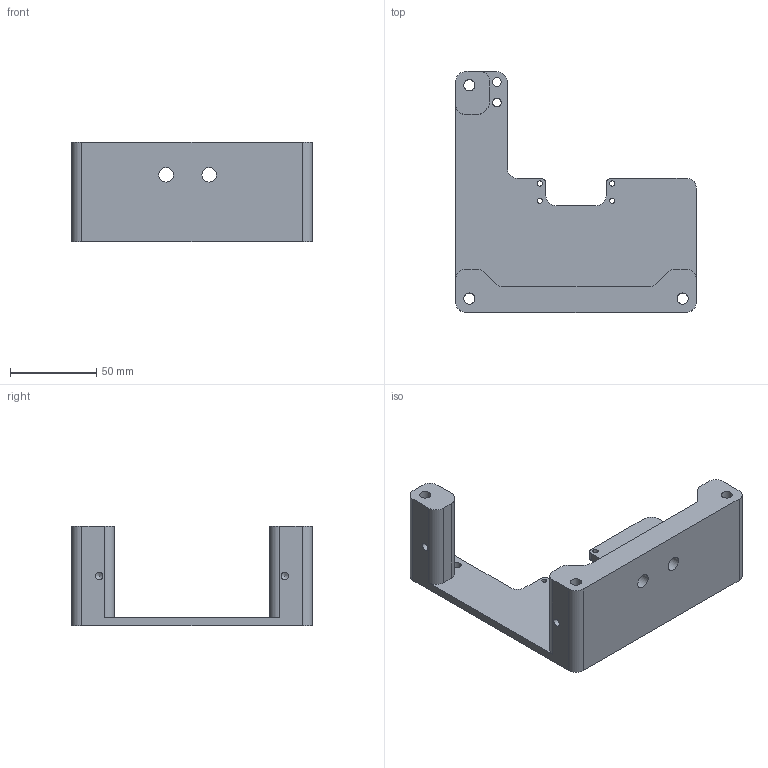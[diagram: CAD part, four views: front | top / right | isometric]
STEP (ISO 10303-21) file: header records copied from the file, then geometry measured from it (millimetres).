
FILE_DESCRIPTION(/* description */ (''),/* implementation_level */ '2;1');
FILE_NAME(/* name */ 'C:\Users\felldings\Documents\Inventor\fabacademy-final\centre_holder.step',/* time_stamp */ '2018-06-09T14:55:01+02:00',/* author */ ('felldings'),/* organization */ (''),/* preprocessor_version */ 'ST-DEVELOPER v17',/* originating_system */ 'Autodesk Inventor 2019',/* authorisation */ '');
FILE_SCHEMA (('AUTOMOTIVE_DESIGN { 1 0 10303 214 3 1 1 }'));
Length unit declared in the file: millimetre
Products named in the file (1): wheel_holder
Bounding box: 140 x 140 x 58 mm (x, y, z)
Volume: 208309.9 mm3; surface area: 53122 mm2
Topology: 1 solids, 1 shells, 57 faces, 178 edges, 123 vertices
Faces by surface type: cylinder 33, plane 22, cone 2
Full cylindrical faces by diameter (mm): 3 x4, 4.5 x2, 5 x2, 6.5 x3, 8.5 x2
Entity records: 2110 total; most frequent: DIRECTION 373, CARTESIAN_POINT 357, ORIENTED_EDGE 352, EDGE_CURVE 176, AXIS2_PLACEMENT_3D 139, VERTEX_POINT 123, LINE 95, VECTOR 95
